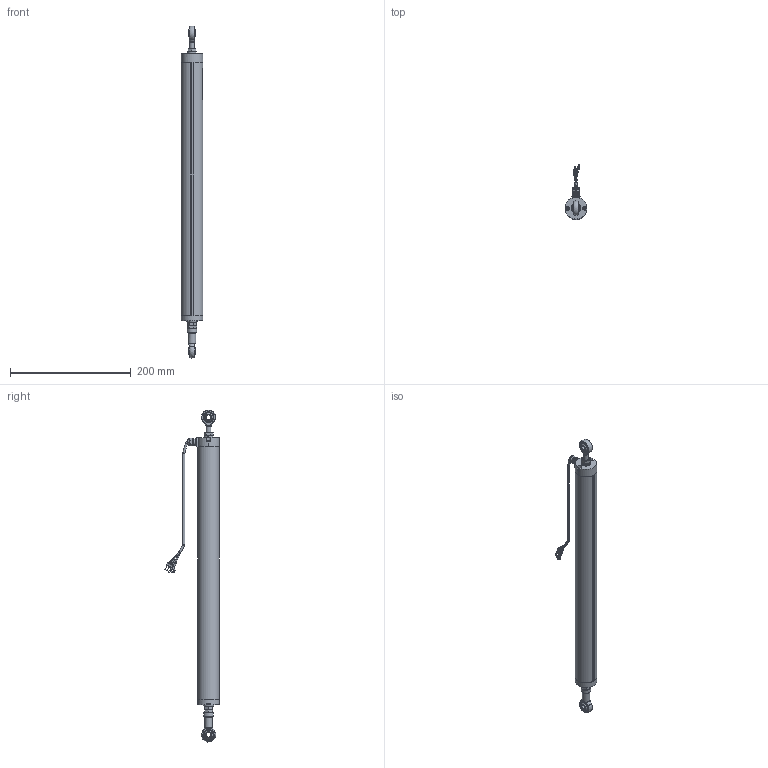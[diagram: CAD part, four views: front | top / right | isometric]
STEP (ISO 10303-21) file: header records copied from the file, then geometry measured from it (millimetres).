
FILE_DESCRIPTION(/* description */ (''),/* implementation_level */ '2;1');
FILE_NAME(/* name */ 'C:\Users\Justin\Documents\CAD\The Sensor Connection\LPPS\LPPS-36B Series\3D\LPPS 36B-350\LPPS-36B-Assembly.stp',/* time_stamp */ '2020-09-09T15:57:35-04:00',/* author */ ('Justin'),/* organization */ (''),/* preprocessor_version */ 'ST-DEVELOPER v18.1',/* originating_system */ 'Autodesk Inventor 2021',/* authorisation */ '');
FILE_SCHEMA (('AUTOMOTIVE_DESIGN { 1 0 10303 214 3 1 1 }'));
Length unit declared in the file: inch
Products named in the file (3): LPPS-36B-Assembly; LPPS 36B-350_Shrinkwrap; LPPS 36B-350_Shrinkwrap_1
Assembly tree (2 placements, depth 2):
  LPPS-36B-Assembly
    LPPS 36B-350_Shrinkwrap
    LPPS 36B-350_Shrinkwrap_1
Bounding box: 36.05 x 90.87 x 549.86 mm (x, y, z)
Volume: 168091.6 mm3; surface area: 138143.7 mm2
Topology: 27 solids, 27 shells, 1058 faces, 2601 edges, 1671 vertices
Faces by surface type: plane 468, cylinder 257, bspline 195, torus 73, cone 60, sphere 5
Full cylindrical faces by diameter (mm): 1.236 x3, 2.5 x2, 3 x6, 3.175 x3, 3.5 x5, 3.708 x1, 5 x3, 5.5 x1, 6 x2, 6.647 x1, 7 x3, 8 x11, 8.1 x1, 8.4 x1, 9 x1, 10 x1, 11 x1, 12.5 x1, 15 x4, 15.8 x1, 16 x1, 18.5 x3, 36 x1
Entity records: 37597 total; most frequent: CARTESIAN_POINT 12105, ORIENTED_EDGE 5202, DIRECTION 4715, EDGE_CURVE 2601, AXIS2_PLACEMENT_3D 1782, VERTEX_POINT 1671, EDGE_LOOP 1175, LINE 1151
